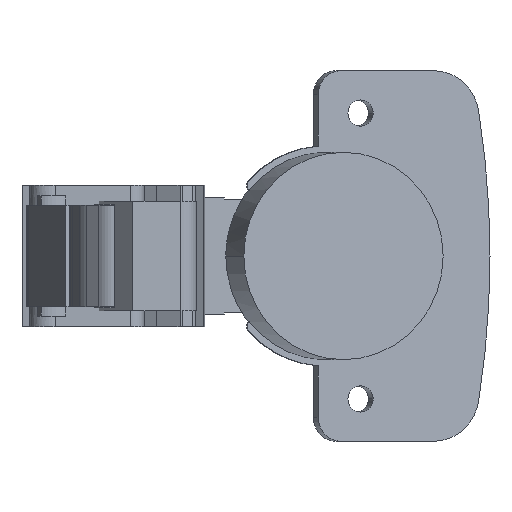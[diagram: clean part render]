
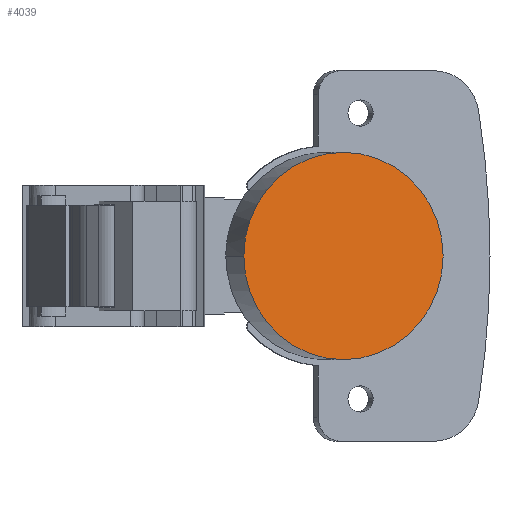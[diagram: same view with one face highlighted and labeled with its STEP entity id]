
A CAD part, left-side view. The second image highlights one B-rep face of the part: STEP entity #4039.
In plain terms, the highlighted planar face has unit normal (-0.961, -0.276, 0).
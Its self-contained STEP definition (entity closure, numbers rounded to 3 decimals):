
#214 = ORIENTED_EDGE ( 'NONE', *, *, #2625, .T. ) ;
#867 = CARTESIAN_POINT ( 'NONE',  ( 65.688, 20.795, 0. ) ) ;
#938 = VERTEX_POINT ( 'NONE', #5990 ) ;
#1383 = DIRECTION ( 'NONE',  ( -0.961, -0.276, 0. ) ) ;
#2554 = DIRECTION ( 'NONE',  ( -0.961, -0.276, 0. ) ) ;
#2625 = EDGE_CURVE ( 'NONE', #938, #2974, #6556, .T. ) ;
#2723 = FACE_OUTER_BOUND ( 'NONE', #6352, .T. ) ;
#2846 = AXIS2_PLACEMENT_3D ( 'NONE', #4686, #2554, #3158 ) ;
#2974 = VERTEX_POINT ( 'NONE', #867 ) ;
#3158 = DIRECTION ( 'NONE',  ( 0.276, -0.961, 0. ) ) ;
#3390 = CARTESIAN_POINT ( 'NONE',  ( 70.485, 4.069, 0. ) ) ;
#3469 = CARTESIAN_POINT ( 'NONE',  ( 70.485, 4.069, 0. ) ) ;
#3498 = PLANE ( 'NONE',  #3636 ) ;
#3636 = AXIS2_PLACEMENT_3D ( 'NONE', #3390, #6071, #4913 ) ;
#4039 = ADVANCED_FACE ( 'NONE', ( #2723 ), #3498, .T. ) ;
#4235 = EDGE_CURVE ( 'NONE', #2974, #938, #5773, .T. ) ;
#4686 = CARTESIAN_POINT ( 'NONE',  ( 70.485, 4.069, 0. ) ) ;
#4913 = DIRECTION ( 'NONE',  ( 0.276, -0.961, 0. ) ) ;
#5020 = DIRECTION ( 'NONE',  ( 0.276, -0.961, 0. ) ) ;
#5211 = ORIENTED_EDGE ( 'NONE', *, *, #4235, .T. ) ;
#5373 = AXIS2_PLACEMENT_3D ( 'NONE', #3469, #1383, #5020 ) ;
#5773 = CIRCLE ( 'NONE', #2846, 17.4 ) ;
#5990 = CARTESIAN_POINT ( 'NONE',  ( 75.281, -12.657, 0. ) ) ;
#6071 = DIRECTION ( 'NONE',  ( -0.961, -0.276, 0. ) ) ;
#6352 = EDGE_LOOP ( 'NONE', ( #5211, #214 ) ) ;
#6556 = CIRCLE ( 'NONE', #5373, 17.4 ) ;
